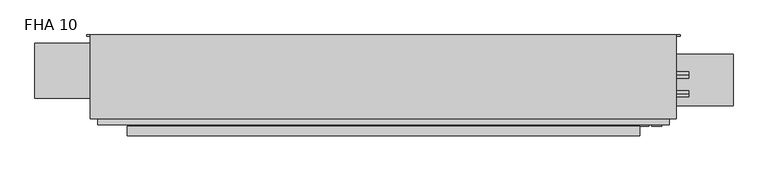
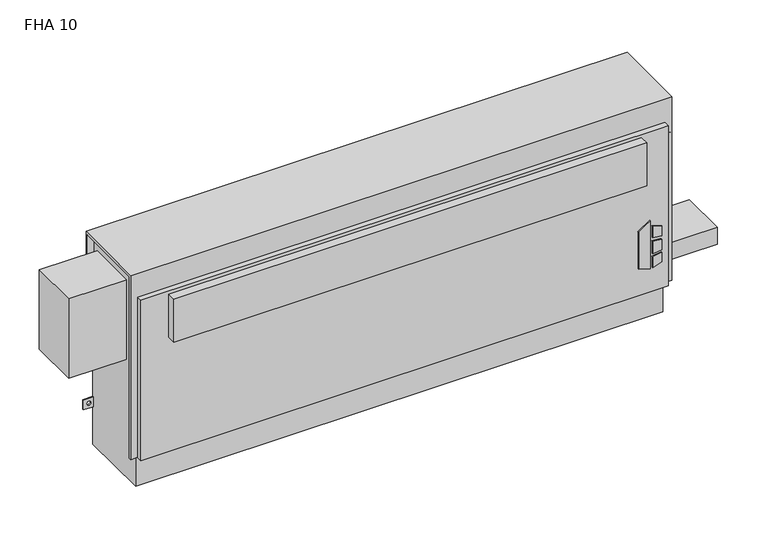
"""IFC4 building model written with IfcOpenShell, lengths in millimetres: proxy geometry, Vertical_Fan_Coil_Unit_-_FHA_-_IEC_-_2-Pipe_FS-FR_RH_2022 : FHA 10."""

from ifc_helpers import new_model, si_unit, point, frame, frame_2d, origin, place, context, project, spatial, polyline, circle_curve, trimmed, segment, composite_curve, outline, extrude, source, transform, mapped, element, save
from ifc_brep_helpers import plane_surface, revolved_surface, advanced_brep


def fha_10_db376b64(model_context):
    return source(origin(), model_context, "Body", "SolidModel", [
        extrude(outline(polyline([(172.5771459, 804.9368862), (162.6290756, 837.1102728), (304.8, 837.1102728), (281.7779939, 804.9368862), (172.5771459, 804.9368862)])), frame((0.0, 9.525, 0.0), z_axis=(0.0, 1.0, 0.0), x_axis=(0.0, 0.0, 1.0)), (0.0, 0.0, 1.0), 3.175),
        extrude(outline(polyline([(251.5764313, 843.8686058), (248.3740387, 869.95), (277.6028798, 869.95), (285.6672948, 843.8686058), (251.5764313, 843.8686058)])), frame((0.0, 9.525, 0.0), z_axis=(0.0, 1.0, 0.0), x_axis=(0.0, 0.0, 1.0)), (0.0, 0.0, 1.0), 3.175),
        extrude(outline(polyline([(199.7129044, 869.95), (196.0474034, 843.8686058), (162.6290756, 843.8686058), (171.2633128, 869.95), (199.7129044, 869.95)])), frame((0.0, 9.525, 0.0), z_axis=(0.0, 1.0, 0.0), x_axis=(0.0, 0.0, 1.0)), (0.0, 0.0, 1.0), 3.175),
        extrude(outline(polyline([(239.0280658, 869.95), (241.3098921, 843.8686058), (205.3723436, 843.8686058), (208.1136086, 869.95), (239.0280658, 869.95)])), frame((0.0, 9.525, 0.0), z_axis=(0.0, 1.0, 0.0), x_axis=(0.0, 0.0, 1.0)), (0.0, 0.0, 1.0), 3.175),
        extrude(outline(composite_curve([segment(trimmed(circle_curve(frame_2d((952.5, 128.5875)), 9.525), [point((942.975, 128.5875))], [point((962.025, 128.5875))], False, "CARTESIAN"), True, "CONTINUOUS"), segment(trimmed(circle_curve(frame_2d((952.5, 128.5875)), 9.525), [point((962.025, 128.5875))], [point((942.975, 128.5875))], False, "CARTESIAN"), True, "CONTINUOUS")], self_intersect=False)), frame((0.0, 0.0, 101.6), z_axis=(0.0, 0.0, 1.0), x_axis=(1.0, 0.0, 0.0)), (0.0, 0.0, 1.0), 25.4),
        extrude(outline(polyline([(1054.1, 195.2625), (1054.1, 61.9125), (889.0, 61.9125), (889.0, 195.2625), (1054.1, 195.2625)])), frame((0.0, 0.0, 127.0), z_axis=(0.0, 0.0, 1.0), x_axis=(1.0, 0.0, 0.0)), (0.0, 0.0, 1.0), 50.8),
        extrude(outline(polyline([(812.8, -15.875), (-508.0, -15.875), (-508.0, 9.525), (812.8, 9.525), (812.8, -15.875)])), frame((0.0, 0.0, 431.8), z_axis=(0.0, 0.0, 1.0), x_axis=(1.0, 0.0, 0.0)), (0.0, 0.0, 1.0), 127.0),
        extrude(outline(composite_curve([segment(trimmed(circle_curve(frame_2d((93.1926, 488.0102)), 7.9375), [point((93.1926, 480.0727))], [point((93.1926, 495.9477))], False, "CARTESIAN"), True, "CONTINUOUS"), segment(trimmed(circle_curve(frame_2d((93.1926, 488.0102)), 7.9375), [point((93.1926, 495.9477))], [point((93.1926, 480.0727))], False, "CARTESIAN"), True, "CONTINUOUS")], self_intersect=False)), frame((889.0, 0.0, 0.0), z_axis=(1.0, 0.0, 0.0), x_axis=(0.0, 1.0, 0.0)), (0.0, 0.0, 1.0), 50.8),
        extrude(outline(composite_curve([segment(trimmed(circle_curve(frame_2d((141.3002, 461.3402)), 7.9375), [point((141.3002, 453.4027))], [point((141.3002, 469.2777))], False, "CARTESIAN"), True, "CONTINUOUS"), segment(trimmed(circle_curve(frame_2d((141.3002, 461.3402)), 7.9375), [point((141.3002, 469.2777))], [point((141.3002, 453.4027))], False, "CARTESIAN"), True, "CONTINUOUS")], self_intersect=False)), frame((889.0, 0.0, 0.0), z_axis=(1.0, 0.0, 0.0), x_axis=(0.0, 1.0, 0.0)), (0.0, 0.0, 1.0), 50.8),
        extrude(outline(polyline([(-584.2, 223.266), (-584.2, 81.534), (-746.125, 81.534), (-746.125, 223.266), (-584.2, 223.266)])), frame((0.0, 0.0, 349.25), z_axis=(0.0, 0.0, 1.0), x_axis=(1.0, 0.0, 0.0)), (0.0, 0.0, 1.0), 234.95),
        advanced_brep(
        [(908.05, 244.475, 635.0), (-603.25, 244.475, 635.0), (-603.25, 28.575, 635.0), (908.05, 28.575, 635.0), (-584.2, 244.475, 0.0), (889.0, 244.475, 0.0), (889.0, 38.1, 0.0), (-584.2, 38.1, 0.0), (908.05, 244.475, 558.8), (889.0, 244.475, 558.8), (889.0, 244.475, 414.3375), (917.575, 244.475, 414.3375), (917.575, 244.475, 385.7625), (889.0, 244.475, 385.7625), (889.0, 244.475, 287.3375), (917.575, 244.475, 287.3375), (917.575, 244.475, 258.7625), (889.0, 244.475, 258.7625), (889.0, 244.475, 141.2875), (917.575, 244.475, 141.2875), (917.575, 244.475, 112.7125), (889.0, 244.475, 112.7125), (-584.2, 244.475, 112.7125), (-612.775, 244.475, 112.7125), (-612.775, 244.475, 141.2875), (-584.2, 244.475, 141.2875), (-584.2, 244.475, 258.7625), (-612.775, 244.475, 258.7625), (-612.775, 244.475, 287.3375), (-584.2, 244.475, 287.3375), (-584.2, 244.475, 385.7625), (-612.775, 244.475, 385.7625), (-612.775, 244.475, 414.3375), (-584.2, 244.475, 414.3375), (-584.2, 244.475, 558.8), (-603.25, 244.475, 558.8), (907.2626, 244.475, 127.0), (896.1374, 244.475, 127.0), (-591.3374, 244.475, 127.0), (-602.4626, 244.475, 127.0), (907.2626, 244.475, 273.05), (896.1374, 244.475, 273.05), (-591.3374, 244.475, 273.05), (-602.4626, 244.475, 273.05), (907.2626, 244.475, 400.05), (896.1374, 244.475, 400.05), (-591.3374, 244.475, 400.05), (-602.4626, 244.475, 400.05), (-603.25, 238.125, 558.8), (-603.25, 238.125, 628.65), (-603.25, 34.925, 628.65), (-603.25, 34.925, 92.075), (-603.25, 28.575, 92.075), (889.0, 12.7, 565.15), (-584.2, 12.7, 565.15), (-584.2, 12.7, 92.075), (889.0, 12.7, 92.075), (908.05, 28.575, 92.075), (908.05, 34.925, 92.075), (908.05, 34.925, 628.65), (908.05, 238.125, 628.65), (908.05, 238.125, 558.8), (-584.2, 28.575, 92.075), (-584.2, 28.575, 565.15), (889.0, 28.575, 565.15), (889.0, 28.575, 92.075), (-584.2, 34.925, 92.075), (-584.2, 38.1, 92.075), (889.0, 38.1, 92.075), (889.0, 34.925, 92.075), (889.0, 241.3, 112.7125), (889.0, 241.3, 141.2875), (889.0, 241.3, 258.7625), (889.0, 241.3, 287.3375), (889.0, 241.3, 385.7625), (889.0, 241.3, 414.3375), (889.0, 238.125, 558.8), (889.0, 238.125, 628.65), (889.0, 34.925, 628.65), (-584.2, 34.925, 628.65), (-584.2, 238.125, 628.65), (-584.2, 238.125, 558.8), (-584.2, 241.3, 414.3375), (-584.2, 241.3, 385.7625), (-584.2, 241.3, 287.3375), (-584.2, 241.3, 258.7625), (-584.2, 241.3, 141.2875), (-584.2, 241.3, 112.7125), (917.575, 241.3, 112.7125), (917.575, 241.3, 141.2875), (896.1374, 241.3, 127.0), (907.2626, 241.3, 127.0), (917.575, 241.3, 258.7625), (917.575, 241.3, 287.3375), (896.1374, 241.3, 273.05), (907.2626, 241.3, 273.05), (917.575, 241.3, 385.7625), (917.575, 241.3, 414.3375), (896.1374, 241.3, 400.05), (907.2626, 241.3, 400.05), (-612.775, 241.3, 141.2875), (-612.775, 241.3, 112.7125), (-602.4626, 241.3, 127.0), (-591.3374, 241.3, 127.0), (-612.775, 241.3, 287.3375), (-612.775, 241.3, 258.7625), (-602.4626, 241.3, 273.05), (-591.3374, 241.3, 273.05), (-612.775, 241.3, 414.3375), (-612.775, 241.3, 385.7625), (-602.4626, 241.3, 400.05), (-591.3374, 241.3, 400.05)],
        [
            (0, 1),
            (1, 2),
            (2, 3),
            (3, 0),
            (4, 5),
            (5, 6),
            (6, 7),
            (7, 4),
            (0, 8),
            (8, 9),
            (9, 10),
            (10, 11),
            (11, 12),
            (12, 13),
            (13, 14),
            (14, 15),
            (15, 16),
            (16, 17),
            (17, 18),
            (18, 19),
            (19, 20),
            (20, 21),
            (21, 5),
            (4, 22),
            (22, 23),
            (23, 24),
            (24, 25),
            (25, 26),
            (26, 27),
            (27, 28),
            (28, 29),
            (29, 30),
            (30, 31),
            (31, 32),
            (32, 33),
            (33, 34),
            (34, 35),
            (35, 1),
            (36, 37, circle_curve(frame((901.7, 244.475, 127.0), z_axis=(0.0, -1.0, 0.0), x_axis=(-1.0, 0.0, 0.0)), 5.5626)),
            (37, 36, circle_curve(frame((901.7, 244.475, 127.0), z_axis=(0.0, -1.0, 0.0), x_axis=(-1.0, 0.0, 0.0)), 5.5626)),
            (38, 39, circle_curve(frame((-596.9, 244.475, 127.0), z_axis=(0.0, -1.0, 0.0), x_axis=(-1.0, 0.0, 0.0)), 5.5626)),
            (39, 38, circle_curve(frame((-596.9, 244.475, 127.0), z_axis=(0.0, -1.0, 0.0), x_axis=(-1.0, 0.0, 0.0)), 5.5626)),
            (40, 41, circle_curve(frame((901.7, 244.475, 273.05), z_axis=(0.0, -1.0, 0.0), x_axis=(-1.0, 0.0, 0.0)), 5.5626)),
            (41, 40, circle_curve(frame((901.7, 244.475, 273.05), z_axis=(0.0, -1.0, 0.0), x_axis=(-1.0, 0.0, 0.0)), 5.5626)),
            (42, 43, circle_curve(frame((-596.9, 244.475, 273.05), z_axis=(0.0, -1.0, 0.0), x_axis=(-1.0, 0.0, 0.0)), 5.5626)),
            (43, 42, circle_curve(frame((-596.9, 244.475, 273.05), z_axis=(0.0, -1.0, 0.0), x_axis=(-1.0, 0.0, 0.0)), 5.5626)),
            (44, 45, circle_curve(frame((901.7, 244.475, 400.05), z_axis=(0.0, -1.0, 0.0), x_axis=(-1.0, 0.0, 0.0)), 5.5626)),
            (45, 44, circle_curve(frame((901.7, 244.475, 400.05), z_axis=(0.0, -1.0, 0.0), x_axis=(-1.0, 0.0, 0.0)), 5.5626)),
            (46, 47, circle_curve(frame((-596.9, 244.475, 400.05), z_axis=(0.0, -1.0, 0.0), x_axis=(-1.0, 0.0, 0.0)), 5.5626)),
            (47, 46, circle_curve(frame((-596.9, 244.475, 400.05), z_axis=(0.0, -1.0, 0.0), x_axis=(-1.0, 0.0, 0.0)), 5.5626)),
            (35, 48),
            (48, 49),
            (49, 50),
            (50, 51),
            (51, 52),
            (52, 2),
            (53, 54),
            (54, 55),
            (55, 56),
            (56, 53),
            (3, 57),
            (57, 58),
            (58, 59),
            (59, 60),
            (60, 61),
            (61, 8),
            (52, 62),
            (62, 63),
            (63, 64),
            (64, 65),
            (65, 57),
            (53, 64),
            (63, 54),
            (55, 62),
            (51, 66),
            (66, 67),
            (67, 68),
            (68, 69),
            (69, 58),
            (65, 56),
            (6, 68),
            (67, 7),
            (21, 70),
            (70, 71),
            (71, 18),
            (17, 72),
            (72, 73),
            (73, 14),
            (13, 74),
            (74, 75),
            (75, 10),
            (9, 76),
            (76, 77),
            (77, 78),
            (78, 69),
            (66, 79),
            (79, 80),
            (80, 81),
            (81, 34),
            (33, 82),
            (82, 83),
            (83, 30),
            (29, 84),
            (84, 85),
            (85, 26),
            (25, 86),
            (86, 87),
            (87, 22),
            (76, 61),
            (60, 77),
            (78, 59),
            (50, 79),
            (81, 48),
            (80, 49),
            (70, 88),
            (88, 89),
            (89, 71),
            (90, 91, circle_curve(frame((901.7, 241.3, 127.0), z_axis=(0.0, 1.0, 0.0), x_axis=(-1.0, 0.0, 0.0)), 5.5626)),
            (91, 90, circle_curve(frame((901.7, 241.3, 127.0), z_axis=(0.0, 1.0, 0.0), x_axis=(-1.0, 0.0, 0.0)), 5.5626)),
            (92, 93),
            (93, 73),
            (72, 92),
            (94, 95, circle_curve(frame((901.7, 241.3, 273.05), z_axis=(0.0, 1.0, 0.0), x_axis=(-1.0, 0.0, 0.0)), 5.5626)),
            (95, 94, circle_curve(frame((901.7, 241.3, 273.05), z_axis=(0.0, 1.0, 0.0), x_axis=(-1.0, 0.0, 0.0)), 5.5626)),
            (96, 97),
            (97, 75),
            (74, 96),
            (98, 99, circle_curve(frame((901.7, 241.3, 400.05), z_axis=(0.0, 1.0, 0.0), x_axis=(-1.0, 0.0, 0.0)), 5.5626)),
            (99, 98, circle_curve(frame((901.7, 241.3, 400.05), z_axis=(0.0, 1.0, 0.0), x_axis=(-1.0, 0.0, 0.0)), 5.5626)),
            (100, 101),
            (101, 87),
            (86, 100),
            (102, 103, circle_curve(frame((-596.9, 241.3, 127.0), z_axis=(0.0, 1.0, 0.0), x_axis=(-1.0, 0.0, 0.0)), 5.5626)),
            (103, 102, circle_curve(frame((-596.9, 241.3, 127.0), z_axis=(0.0, 1.0, 0.0), x_axis=(-1.0, 0.0, 0.0)), 5.5626)),
            (84, 104),
            (104, 105),
            (105, 85),
            (106, 107, circle_curve(frame((-596.9, 241.3, 273.05), z_axis=(0.0, 1.0, 0.0), x_axis=(-1.0, 0.0, 0.0)), 5.5626)),
            (107, 106, circle_curve(frame((-596.9, 241.3, 273.05), z_axis=(0.0, 1.0, 0.0), x_axis=(-1.0, 0.0, 0.0)), 5.5626)),
            (108, 109),
            (109, 83),
            (82, 108),
            (110, 111, circle_curve(frame((-596.9, 241.3, 400.05), z_axis=(0.0, 1.0, 0.0), x_axis=(-1.0, 0.0, 0.0)), 5.5626)),
            (111, 110, circle_curve(frame((-596.9, 241.3, 400.05), z_axis=(0.0, 1.0, 0.0), x_axis=(-1.0, 0.0, 0.0)), 5.5626)),
            (89, 19),
            (88, 20),
            (16, 92),
            (93, 15),
            (12, 96),
            (97, 11),
            (24, 100),
            (101, 23),
            (105, 27),
            (104, 28),
            (32, 108),
            (109, 31),
            (90, 37),
            (36, 91),
            (102, 39),
            (38, 103),
            (94, 41),
            (40, 95),
            (106, 43),
            (42, 107),
            (98, 45),
            (44, 99),
            (110, 47),
            (46, 111),
        ],
        [
            plane_surface(frame((-603.25, 244.475, 635.0), z_axis=(0.0, 0.0, 1.0), x_axis=(-1.0, 0.0, 0.0))),
            plane_surface(frame((-603.25, 244.475, 0.0), z_axis=(0.0, 0.0, -1.0), x_axis=(1.0, 0.0, 0.0))),
            plane_surface(frame((908.05, 244.475, 635.0), z_axis=(0.0, 1.0, 0.0), x_axis=(0.0, 0.0, -1.0))),
            plane_surface(frame((-603.25, 244.475, 635.0), z_axis=(-1.0, 0.0, 0.0), x_axis=(0.0, 0.0, -1.0))),
            plane_surface(frame((-603.25, 12.7, 635.0), z_axis=(0.0, -1.0, 0.0), x_axis=(0.0, 0.0, -1.0))),
            plane_surface(frame((908.05, 12.7, 635.0), z_axis=(1.0, 0.0, 0.0), x_axis=(0.0, 0.0, -1.0))),
            plane_surface(frame((-1060.45, 28.575, 635.0), z_axis=(0.0, -1.0, 0.0), x_axis=(1.0, 0.0, 0.0))),
            plane_surface(frame((-1060.45, 28.575, 565.15), z_axis=(0.0, 0.0, 1.0), x_axis=(1.0, 0.0, 0.0))),
            plane_surface(frame((-603.25, 12.7, 92.075), z_axis=(0.0, 0.0, -1.0), x_axis=(1.0, 0.0, 0.0))),
            plane_surface(frame((-603.25, 38.1, 92.075), z_axis=(0.0, -1.0, 0.0), x_axis=(1.0, 0.0, 0.0))),
            plane_surface(frame((889.0, 28.575, 92.075), z_axis=(1.0, 0.0, 0.0), x_axis=(0.0, -1.0, 0.0))),
            plane_surface(frame((-584.2, 28.575, 565.15), z_axis=(-1.0, 0.0, 0.0), x_axis=(0.0, -1.0, 0.0))),
            plane_surface(frame((889.0, 244.475, 0.0), z_axis=(1.0, 0.0, 0.0), x_axis=(0.0, -1.0, 0.0))),
            plane_surface(frame((-584.2, 244.475, 92.075), z_axis=(-1.0, 0.0, 0.0), x_axis=(0.0, -1.0, 0.0))),
            plane_surface(frame((889.0, 238.125, 628.65), z_axis=(0.0, -1.0, 0.0), x_axis=(1.0, 0.0, 0.0))),
            plane_surface(frame((889.0, 238.125, 558.8), z_axis=(0.0, 0.0, -1.0), x_axis=(1.0, 0.0, 0.0))),
            plane_surface(frame((889.0, 34.925, 92.075), z_axis=(0.0, 1.0, 0.0), x_axis=(1.0, 0.0, 0.0))),
            plane_surface(frame((889.0, 34.925, 628.65), z_axis=(0.0, 0.0, -1.0), x_axis=(1.0, 0.0, 0.0))),
            plane_surface(frame((-584.2, 34.925, 628.65), z_axis=(0.0, 1.0, 0.0), x_axis=(-1.0, 0.0, 0.0))),
            plane_surface(frame((-584.2, 244.475, 558.8), z_axis=(0.0, 0.0, -1.0), x_axis=(-1.0, 0.0, 0.0))),
            plane_surface(frame((-584.2, 238.125, 558.8), z_axis=(0.0, -1.0, 0.0), x_axis=(-1.0, 0.0, 0.0))),
            plane_surface(frame((-584.2, 238.125, 628.65), z_axis=(0.0, 0.0, -1.0), x_axis=(-1.0, 0.0, 0.0))),
            plane_surface(frame((917.575, 241.3, 141.2875), z_axis=(0.0, -1.0, 0.0), x_axis=(-1.0, 0.0, 0.0))),
            plane_surface(frame((889.0, 244.475, 141.2875), z_axis=(0.0, 0.0, 1.0), x_axis=(0.0, -1.0, 0.0))),
            plane_surface(frame((917.575, 244.475, 141.2875), z_axis=(1.0, 0.0, 0.0), x_axis=(0.0, -1.0, 0.0))),
            plane_surface(frame((917.575, 244.475, 112.7125), z_axis=(0.0, 0.0, -1.0), x_axis=(0.0, -1.0, 0.0))),
            plane_surface(frame((917.575, 244.475, 258.7625), z_axis=(0.0, 0.0, -1.0), x_axis=(0.0, -1.0, 0.0))),
            plane_surface(frame((889.0, 244.475, 287.3375), z_axis=(0.0, 0.0, 1.0), x_axis=(0.0, -1.0, 0.0))),
            plane_surface(frame((917.575, 244.475, 287.3375), z_axis=(1.0, 0.0, 0.0), x_axis=(0.0, -1.0, 0.0))),
            plane_surface(frame((917.575, 244.475, 385.7625), z_axis=(0.0, 0.0, -1.0), x_axis=(0.0, -1.0, 0.0))),
            plane_surface(frame((889.0, 244.475, 414.3375), z_axis=(0.0, 0.0, 1.0), x_axis=(0.0, -1.0, 0.0))),
            plane_surface(frame((917.575, 244.475, 414.3375), z_axis=(1.0, 0.0, 0.0), x_axis=(0.0, -1.0, 0.0))),
            plane_surface(frame((-612.775, 244.475, 141.2875), z_axis=(0.0, 0.0, 1.0), x_axis=(0.0, -1.0, 0.0))),
            plane_surface(frame((-584.2, 244.475, 112.7125), z_axis=(0.0, 0.0, -1.0), x_axis=(0.0, -1.0, 0.0))),
            plane_surface(frame((-612.775, 244.475, 112.7125), z_axis=(-1.0, 0.0, 0.0), x_axis=(0.0, -1.0, 0.0))),
            plane_surface(frame((-584.2, 244.475, 258.7625), z_axis=(0.0, 0.0, -1.0), x_axis=(0.0, -1.0, 0.0))),
            plane_surface(frame((-612.775, 244.475, 258.7625), z_axis=(-1.0, 0.0, 0.0), x_axis=(0.0, -1.0, 0.0))),
            plane_surface(frame((-612.775, 244.475, 287.3375), z_axis=(0.0, 0.0, 1.0), x_axis=(0.0, -1.0, 0.0))),
            plane_surface(frame((-612.775, 244.475, 414.3375), z_axis=(0.0, 0.0, 1.0), x_axis=(0.0, -1.0, 0.0))),
            plane_surface(frame((-584.2, 244.475, 385.7625), z_axis=(0.0, 0.0, -1.0), x_axis=(0.0, -1.0, 0.0))),
            plane_surface(frame((-612.775, 244.475, 385.7625), z_axis=(-1.0, 0.0, 0.0), x_axis=(0.0, -1.0, 0.0))),
            revolved_surface(polyline([(896.1374000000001, 241.3, 127.0), (896.1374000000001, 244.475, 127.0)]), (901.7, 244.475, 127.0), (0.0, -1.0, 0.0)),
            revolved_surface(polyline([(-602.4626, 241.3, 127.0), (-602.4626, 244.475, 127.0)]), (-596.9, 244.475, 127.0), (0.0, -1.0, 0.0)),
            revolved_surface(polyline([(896.1374000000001, 241.3, 273.05), (896.1374000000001, 244.475, 273.05)]), (901.7, 244.475, 273.05), (0.0, -1.0, 0.0)),
            revolved_surface(polyline([(-602.4626, 241.3, 273.05), (-602.4626, 244.475, 273.05)]), (-596.9, 244.475, 273.05), (0.0, -1.0, 0.0)),
            revolved_surface(polyline([(896.1374000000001, 241.3, 400.05), (896.1374000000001, 244.475, 400.05)]), (901.7, 244.475, 400.05), (0.0, -1.0, 0.0)),
            revolved_surface(polyline([(-602.4626, 241.3, 400.05), (-602.4626, 244.475, 400.05)]), (-596.9, 244.475, 400.05), (0.0, -1.0, 0.0)),
        ],
        [
            (0, [[1, 2, 3, 4]]),
            (1, [[5, 6, 7, 8]]),
            (2, [[-1, 9, 10, 11, 12, 13, 14, 15, 16, 17, 18, 19, 20, 21, 22, 23, -5, 24, 25, 26, 27, 28, 29, 30, 31, 32, 33, 34, 35, 36, 37, 38], [39, 40], [41, 42], [43, 44], [45, 46], [47, 48], [49, 50]]),
            (3, [[-2, -38, 51, 52, 53, 54, 55, 56]]),
            (4, [[57, 58, 59, 60]]),
            (5, [[-4, 61, 62, 63, 64, 65, 66, -9]]),
            (6, [[-3, -56, 67, 68, 69, 70, 71, -61]]),
            (7, [[-57, 72, -69, 73]]),
            (8, [[-59, 74, -67, -55, 75, 76, 77, 78, 79, -62, -71, 80]]),
            (9, [[-7, 81, -77, 82]]),
            (10, [[-70, -72, -60, -80]]),
            (11, [[-68, -74, -58, -73]]),
            (12, [[-6, -23, 83, 84, 85, -19, 86, 87, 88, -15, 89, 90, 91, -11, 92, 93, 94, 95, -78, -81]]),
            (13, [[-8, -82, -76, 96, 97, 98, 99, -36, 100, 101, 102, -32, 103, 104, 105, -28, 106, 107, 108, -24]]),
            (14, [[-93, 109, -65, 110]]),
            (15, [[-92, -10, -66, -109]]),
            (16, [[-95, 111, -63, -79]]),
            (17, [[-94, -110, -64, -111]]),
            (18, [[-96, -75, -54, 112]]),
            (19, [[-99, 113, -51, -37]]),
            (20, [[-98, 114, -52, -113]]),
            (21, [[-97, -112, -53, -114]]),
            (22, [[115, 116, 117, -84], [118, 119]]),
            (22, [[120, 121, -87, 122], [123, 124]]),
            (22, [[125, 126, -90, 127], [128, 129]]),
            (22, [[130, 131, -107, 132], [133, 134]]),
            (22, [[135, 136, 137, -104], [138, 139]]),
            (22, [[140, 141, -101, 142], [143, 144]]),
            (23, [[-117, 145, -20, -85]]),
            (24, [[-116, 146, -21, -145]]),
            (25, [[-115, -83, -22, -146]]),
            (26, [[-122, -86, -18, 147]]),
            (27, [[-121, 148, -16, -88]]),
            (28, [[-120, -147, -17, -148]]),
            (29, [[-127, -89, -14, 149]]),
            (30, [[-126, 150, -12, -91]]),
            (31, [[-125, -149, -13, -150]]),
            (32, [[-132, -106, -27, 151]]),
            (33, [[-131, 152, -25, -108]]),
            (34, [[-130, -151, -26, -152]]),
            (35, [[-137, 153, -29, -105]]),
            (36, [[-136, 154, -30, -153]]),
            (37, [[-135, -103, -31, -154]]),
            (38, [[-142, -100, -35, 155]]),
            (39, [[-141, 156, -33, -102]]),
            (40, [[-140, -155, -34, -156]]),
            (41, [[157, -39, 158, -118]]),
            (41, [[-157, -119, -158, -40]]),
            (42, [[159, -41, 160, -133]]),
            (42, [[-159, -134, -160, -42]]),
            (43, [[161, -43, 162, -123]]),
            (43, [[-161, -124, -162, -44]]),
            (44, [[163, -45, 164, -138]]),
            (44, [[-163, -139, -164, -46]]),
            (45, [[165, -47, 166, -128]]),
            (45, [[-165, -129, -166, -48]]),
            (46, [[167, -49, 168, -143]]),
            (46, [[-167, -144, -168, -50]]),
        ],
    ),
    ])


if __name__ == "__main__":
    model = new_model("IFC4")
    model_context = context("Model", 3, world=origin())
    ifc_project = project(units=[si_unit("LENGTHUNIT", "METRE", prefix="MILLI")], contexts=[model_context])
    site = spatial("IfcSite", under=ifc_project)
    building = spatial("IfcBuilding", under=site)
    placement = place(None, origin())
    fha_10_shape = fha_10_db376b64(model_context)
    element("IfcBuildingElementProxy", 1, Name="Vertical_Fan_Coil_Unit_-_FHA_-_IEC_-_2-Pipe_FS-FR_RH_2022 : FHA 10", ObjectType="Vertical_Fan_Coil_Unit_-_FHA_-_IEC_-_2-Pipe_FS-FR_RH_2022 : FHA 10", at=placement, inside=building, context=model_context, shape_type="MappedRepresentation", body=[
        mapped(fha_10_shape, transform((0.0, 0.0, 0.0), x_axis=(1.0, 0.0, 0.0), y_axis=(0.0, 1.0, 0.0), z_axis=(0.0, 0.0, 1.0))),
    ])
    save(model, "model.ifc")
